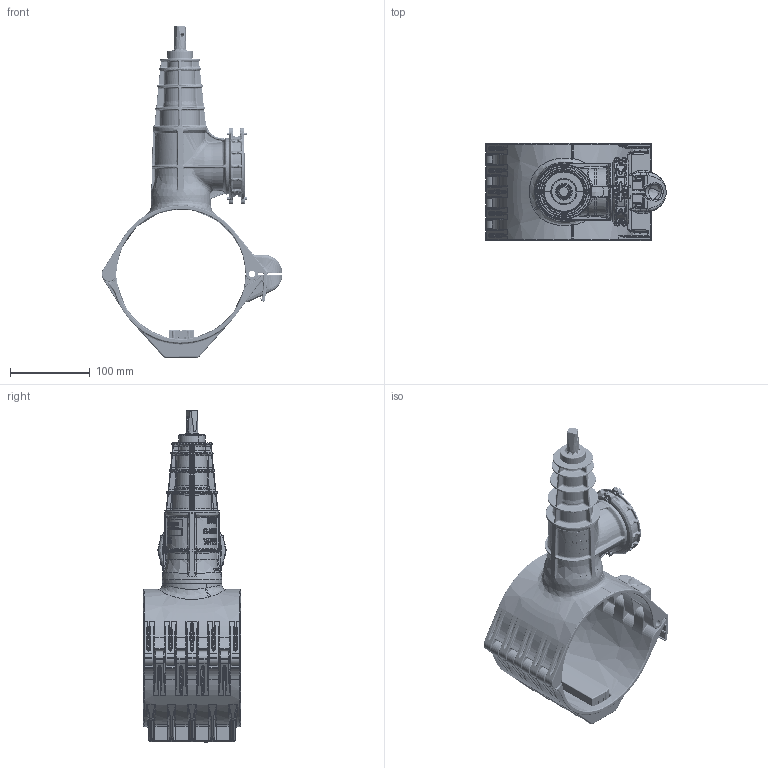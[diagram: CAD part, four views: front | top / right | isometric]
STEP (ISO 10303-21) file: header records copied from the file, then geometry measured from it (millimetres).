
FILE_DESCRIPTION(('STEP AP214'),'1');
FILE_NAME('711782.stp','2019-04-05T11:05:36',('CAD-PIM'),('TransMagic, Inc.'),'TMR12sp0','TransMagic R12',' ');
FILE_SCHEMA(('AUTOMOTIVE_DESIGN'));
Length unit declared in the file: millimetre
Products named in the file (1): 711782 (1)
Bounding box: 226.74 x 122 x 417.2 mm (x, y, z)
Volume: 1170452.9 mm3; surface area: 284267.3 mm2
Topology: 1 solids, 1 shells, 5264 faces, 13267 edges, 7859 vertices
Faces by surface type: bspline 5264
Entity records: 385510 total; most frequent: CARTESIAN_POINT 144867, STYLED_ITEM 26125, PRESENTATION_STYLE_ASSIGNMENT 26125, COLOUR_RGB 26125, ORIENTED_EDGE 26002, EDGE_CURVE 13001, CURVE_STYLE 13001, DRAUGHTING_PRE_DEFINED_CURVE_FONT 13001
